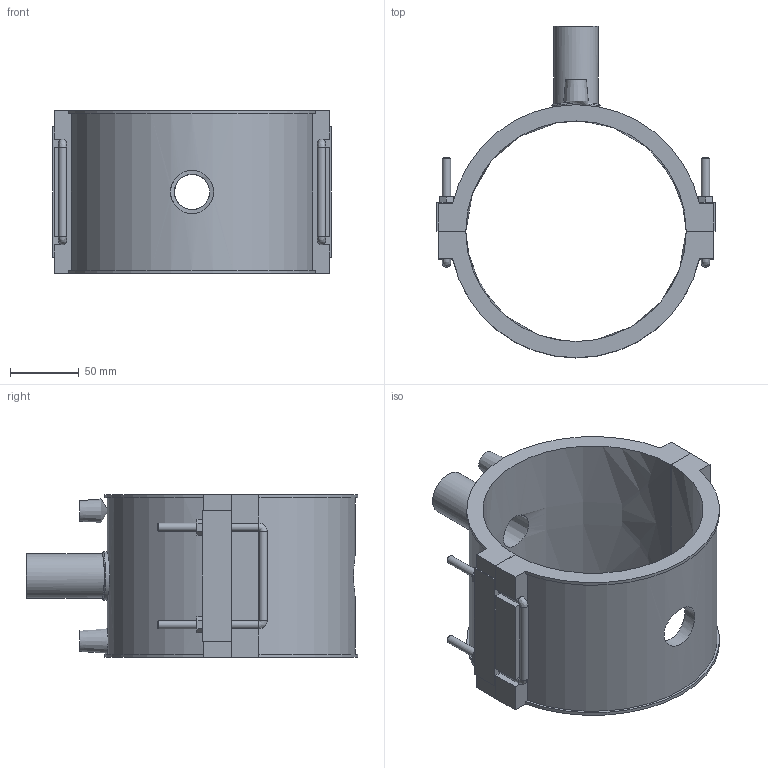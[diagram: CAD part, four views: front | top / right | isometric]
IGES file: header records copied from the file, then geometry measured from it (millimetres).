
Global section: file name: 495804160032.ipt; native system: Autodesk Inventor 2015; preprocessor: unknown; author: KIM; date: 20180426.120849; units: millimetre
Bounding box: 202 x 240.8 x 118 mm (x, y, z)
Volume: 759776.2 mm3; surface area: 177201.9 mm2
Topology: 2 solids, 2 shells, 133 faces, 340 edges, 214 vertices
Faces by surface type: plane 85, cylinder 22, revolution 10, bspline 9, cone 7
Full cylindrical faces by diameter (mm): 4 x2, 6 x10, 32 x1, 35.2 x1
